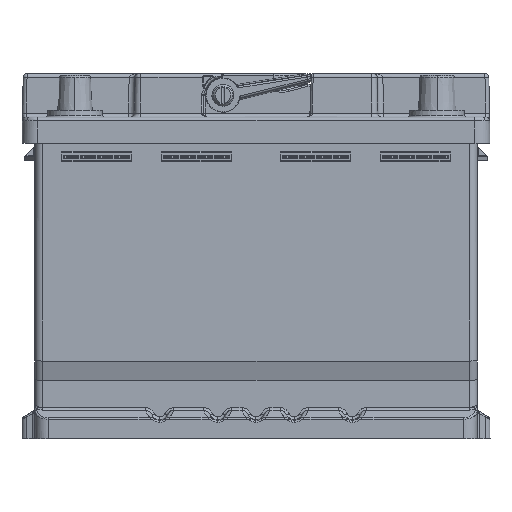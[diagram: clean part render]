
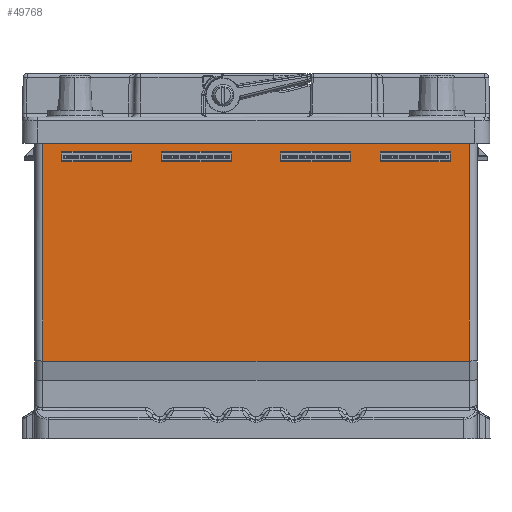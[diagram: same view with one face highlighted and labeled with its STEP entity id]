
A CAD part, front view. The second image highlights one B-rep face of the part: STEP entity #49768.
In plain terms, the highlighted planar face has unit normal (0, -1, 0).
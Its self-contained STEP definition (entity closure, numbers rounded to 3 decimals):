
#36997=CARTESIAN_POINT('Vertex',(-110.2,-83.05,161.)) ;
#37000=CARTESIAN_POINT('Line Origine',(0.,-83.05,161.)) ;
#37004=CARTESIAN_POINT('Vertex',(110.2,-83.05,161.)) ;
#49581=CARTESIAN_POINT('Line Origine',(-110.2,-83.05,166.)) ;
#49585=CARTESIAN_POINT('Vertex',(-110.2,-83.05,40.)) ;
#49609=CARTESIAN_POINT('Axis2P3D Location',(-114.2,-83.05,40.)) ;
#49614=CARTESIAN_POINT('Line Origine',(0.,-83.05,40.)) ;
#49618=CARTESIAN_POINT('Vertex',(110.2,-83.05,40.)) ;
#49621=CARTESIAN_POINT('Line Origine',(110.2,-83.05,100.5)) ;
#49632=CARTESIAN_POINT('Line Origine',(82.25,-83.05,148.044)) ;
#49636=CARTESIAN_POINT('Vertex',(100.25,-83.05,148.044)) ;
#49638=CARTESIAN_POINT('Vertex',(64.25,-83.05,148.044)) ;
#49641=CARTESIAN_POINT('Line Origine',(100.25,-83.05,145.522)) ;
#49645=CARTESIAN_POINT('Vertex',(100.25,-83.05,143.)) ;
#49648=CARTESIAN_POINT('Line Origine',(82.25,-83.05,143.)) ;
#49652=CARTESIAN_POINT('Vertex',(64.25,-83.05,143.)) ;
#49655=CARTESIAN_POINT('Line Origine',(64.25,-83.05,145.522)) ;
#49666=CARTESIAN_POINT('Line Origine',(30.75,-83.05,148.044)) ;
#49670=CARTESIAN_POINT('Vertex',(48.75,-83.05,148.044)) ;
#49672=CARTESIAN_POINT('Vertex',(12.75,-83.05,148.044)) ;
#49675=CARTESIAN_POINT('Line Origine',(48.75,-83.05,145.522)) ;
#49679=CARTESIAN_POINT('Vertex',(48.75,-83.05,143.)) ;
#49682=CARTESIAN_POINT('Line Origine',(30.75,-83.05,143.)) ;
#49686=CARTESIAN_POINT('Vertex',(12.75,-83.05,143.)) ;
#49689=CARTESIAN_POINT('Line Origine',(12.75,-83.05,145.522)) ;
#49700=CARTESIAN_POINT('Line Origine',(-82.25,-83.05,143.)) ;
#49704=CARTESIAN_POINT('Vertex',(-100.25,-83.05,143.)) ;
#49706=CARTESIAN_POINT('Vertex',(-64.25,-83.05,143.)) ;
#49709=CARTESIAN_POINT('Line Origine',(-100.25,-83.05,145.522)) ;
#49713=CARTESIAN_POINT('Vertex',(-100.25,-83.05,148.044)) ;
#49716=CARTESIAN_POINT('Line Origine',(-82.25,-83.05,148.044)) ;
#49720=CARTESIAN_POINT('Vertex',(-64.25,-83.05,148.044)) ;
#49723=CARTESIAN_POINT('Line Origine',(-64.25,-83.05,145.522)) ;
#49734=CARTESIAN_POINT('Line Origine',(-30.75,-83.05,143.)) ;
#49738=CARTESIAN_POINT('Vertex',(-48.75,-83.05,143.)) ;
#49740=CARTESIAN_POINT('Vertex',(-12.75,-83.05,143.)) ;
#49743=CARTESIAN_POINT('Line Origine',(-48.75,-83.05,145.522)) ;
#49747=CARTESIAN_POINT('Vertex',(-48.75,-83.05,148.044)) ;
#49750=CARTESIAN_POINT('Line Origine',(-30.75,-83.05,148.044)) ;
#49754=CARTESIAN_POINT('Vertex',(-12.75,-83.05,148.044)) ;
#49757=CARTESIAN_POINT('Line Origine',(-12.75,-83.05,145.522)) ;
#37001=DIRECTION('Vector Direction',(1.,0.,0.)) ;
#49582=DIRECTION('Vector Direction',(0.,0.,-1.)) ;
#49610=DIRECTION('Axis2P3D Direction',(0.,1.,-0.)) ;
#49611=DIRECTION('Axis2P3D XDirection',(-1.,0.,0.)) ;
#49615=DIRECTION('Vector Direction',(-1.,0.,0.)) ;
#49622=DIRECTION('Vector Direction',(0.,0.,-1.)) ;
#49633=DIRECTION('Vector Direction',(-1.,0.,0.)) ;
#49642=DIRECTION('Vector Direction',(0.,0.,1.)) ;
#49649=DIRECTION('Vector Direction',(1.,0.,0.)) ;
#49656=DIRECTION('Vector Direction',(0.,0.,-1.)) ;
#49667=DIRECTION('Vector Direction',(-1.,0.,0.)) ;
#49676=DIRECTION('Vector Direction',(0.,0.,1.)) ;
#49683=DIRECTION('Vector Direction',(1.,0.,0.)) ;
#49690=DIRECTION('Vector Direction',(0.,0.,-1.)) ;
#49701=DIRECTION('Vector Direction',(1.,0.,0.)) ;
#49710=DIRECTION('Vector Direction',(0.,0.,-1.)) ;
#49717=DIRECTION('Vector Direction',(-1.,0.,0.)) ;
#49724=DIRECTION('Vector Direction',(0.,0.,1.)) ;
#49735=DIRECTION('Vector Direction',(1.,0.,0.)) ;
#49744=DIRECTION('Vector Direction',(0.,0.,-1.)) ;
#49751=DIRECTION('Vector Direction',(-1.,0.,0.)) ;
#49758=DIRECTION('Vector Direction',(0.,0.,1.)) ;
#49612=AXIS2_PLACEMENT_3D('Plane Axis2P3D',#49609,#49610,#49611) ;
#49627=ORIENTED_EDGE('',*,*,#37006,.F.) ;
#49628=ORIENTED_EDGE('',*,*,#49587,.F.) ;
#49629=ORIENTED_EDGE('',*,*,#49620,.F.) ;
#49630=ORIENTED_EDGE('',*,*,#49625,.F.) ;
#49661=ORIENTED_EDGE('',*,*,#49640,.F.) ;
#49662=ORIENTED_EDGE('',*,*,#49647,.F.) ;
#49663=ORIENTED_EDGE('',*,*,#49654,.F.) ;
#49664=ORIENTED_EDGE('',*,*,#49659,.F.) ;
#49695=ORIENTED_EDGE('',*,*,#49674,.F.) ;
#49696=ORIENTED_EDGE('',*,*,#49681,.F.) ;
#49697=ORIENTED_EDGE('',*,*,#49688,.F.) ;
#49698=ORIENTED_EDGE('',*,*,#49693,.F.) ;
#49729=ORIENTED_EDGE('',*,*,#49708,.F.) ;
#49730=ORIENTED_EDGE('',*,*,#49715,.F.) ;
#49731=ORIENTED_EDGE('',*,*,#49722,.F.) ;
#49732=ORIENTED_EDGE('',*,*,#49727,.F.) ;
#49763=ORIENTED_EDGE('',*,*,#49742,.F.) ;
#49764=ORIENTED_EDGE('',*,*,#49749,.F.) ;
#49765=ORIENTED_EDGE('',*,*,#49756,.F.) ;
#49766=ORIENTED_EDGE('',*,*,#49761,.F.) ;
#49665=FACE_BOUND('',#49660,.T.) ;
#49699=FACE_BOUND('',#49694,.T.) ;
#49733=FACE_BOUND('',#49728,.T.) ;
#49767=FACE_BOUND('',#49762,.T.) ;
#37002=VECTOR('Line Direction',#37001,1.) ;
#49583=VECTOR('Line Direction',#49582,1.) ;
#49616=VECTOR('Line Direction',#49615,1.) ;
#49623=VECTOR('Line Direction',#49622,1.) ;
#49634=VECTOR('Line Direction',#49633,1.) ;
#49643=VECTOR('Line Direction',#49642,1.) ;
#49650=VECTOR('Line Direction',#49649,1.) ;
#49657=VECTOR('Line Direction',#49656,1.) ;
#49668=VECTOR('Line Direction',#49667,1.) ;
#49677=VECTOR('Line Direction',#49676,1.) ;
#49684=VECTOR('Line Direction',#49683,1.) ;
#49691=VECTOR('Line Direction',#49690,1.) ;
#49702=VECTOR('Line Direction',#49701,1.) ;
#49711=VECTOR('Line Direction',#49710,1.) ;
#49718=VECTOR('Line Direction',#49717,1.) ;
#49725=VECTOR('Line Direction',#49724,1.) ;
#49736=VECTOR('Line Direction',#49735,1.) ;
#49745=VECTOR('Line Direction',#49744,1.) ;
#49752=VECTOR('Line Direction',#49751,1.) ;
#49759=VECTOR('Line Direction',#49758,1.) ;
#49768=ADVANCED_FACE('KOMBINIEREN1',(#49631,#49665,#49699,#49733,#49767),#49613,.F.) ;
#37006=EDGE_CURVE('',#36998,#37005,#37003,.T.) ;
#49587=EDGE_CURVE('',#49586,#36998,#49584,.F.) ;
#49620=EDGE_CURVE('',#49619,#49586,#49617,.T.) ;
#49625=EDGE_CURVE('',#37005,#49619,#49624,.T.) ;
#49640=EDGE_CURVE('',#49637,#49639,#49635,.T.) ;
#49647=EDGE_CURVE('',#49646,#49637,#49644,.T.) ;
#49654=EDGE_CURVE('',#49653,#49646,#49651,.T.) ;
#49659=EDGE_CURVE('',#49639,#49653,#49658,.T.) ;
#49674=EDGE_CURVE('',#49671,#49673,#49669,.T.) ;
#49681=EDGE_CURVE('',#49680,#49671,#49678,.T.) ;
#49688=EDGE_CURVE('',#49687,#49680,#49685,.T.) ;
#49693=EDGE_CURVE('',#49673,#49687,#49692,.T.) ;
#49708=EDGE_CURVE('',#49705,#49707,#49703,.T.) ;
#49715=EDGE_CURVE('',#49714,#49705,#49712,.T.) ;
#49722=EDGE_CURVE('',#49721,#49714,#49719,.T.) ;
#49727=EDGE_CURVE('',#49707,#49721,#49726,.T.) ;
#49742=EDGE_CURVE('',#49739,#49741,#49737,.T.) ;
#49749=EDGE_CURVE('',#49748,#49739,#49746,.T.) ;
#49756=EDGE_CURVE('',#49755,#49748,#49753,.T.) ;
#49761=EDGE_CURVE('',#49741,#49755,#49760,.T.) ;
#49626=EDGE_LOOP('',(#49627,#49628,#49629,#49630)) ;
#49660=EDGE_LOOP('',(#49661,#49662,#49663,#49664)) ;
#49694=EDGE_LOOP('',(#49695,#49696,#49697,#49698)) ;
#49728=EDGE_LOOP('',(#49729,#49730,#49731,#49732)) ;
#49762=EDGE_LOOP('',(#49763,#49764,#49765,#49766)) ;
#49631=FACE_OUTER_BOUND('',#49626,.T.) ;
#37003=LINE('Line',#37000,#37002) ;
#49584=LINE('Line',#49581,#49583) ;
#49617=LINE('Line',#49614,#49616) ;
#49624=LINE('Line',#49621,#49623) ;
#49635=LINE('Line',#49632,#49634) ;
#49644=LINE('Line',#49641,#49643) ;
#49651=LINE('Line',#49648,#49650) ;
#49658=LINE('Line',#49655,#49657) ;
#49669=LINE('Line',#49666,#49668) ;
#49678=LINE('Line',#49675,#49677) ;
#49685=LINE('Line',#49682,#49684) ;
#49692=LINE('Line',#49689,#49691) ;
#49703=LINE('Line',#49700,#49702) ;
#49712=LINE('Line',#49709,#49711) ;
#49719=LINE('Line',#49716,#49718) ;
#49726=LINE('Line',#49723,#49725) ;
#49737=LINE('Line',#49734,#49736) ;
#49746=LINE('Line',#49743,#49745) ;
#49753=LINE('Line',#49750,#49752) ;
#49760=LINE('Line',#49757,#49759) ;
#49613=PLANE('Plane',#49612) ;
#36998=VERTEX_POINT('',#36997) ;
#37005=VERTEX_POINT('',#37004) ;
#49586=VERTEX_POINT('',#49585) ;
#49619=VERTEX_POINT('',#49618) ;
#49637=VERTEX_POINT('',#49636) ;
#49639=VERTEX_POINT('',#49638) ;
#49646=VERTEX_POINT('',#49645) ;
#49653=VERTEX_POINT('',#49652) ;
#49671=VERTEX_POINT('',#49670) ;
#49673=VERTEX_POINT('',#49672) ;
#49680=VERTEX_POINT('',#49679) ;
#49687=VERTEX_POINT('',#49686) ;
#49705=VERTEX_POINT('',#49704) ;
#49707=VERTEX_POINT('',#49706) ;
#49714=VERTEX_POINT('',#49713) ;
#49721=VERTEX_POINT('',#49720) ;
#49739=VERTEX_POINT('',#49738) ;
#49741=VERTEX_POINT('',#49740) ;
#49748=VERTEX_POINT('',#49747) ;
#49755=VERTEX_POINT('',#49754) ;
